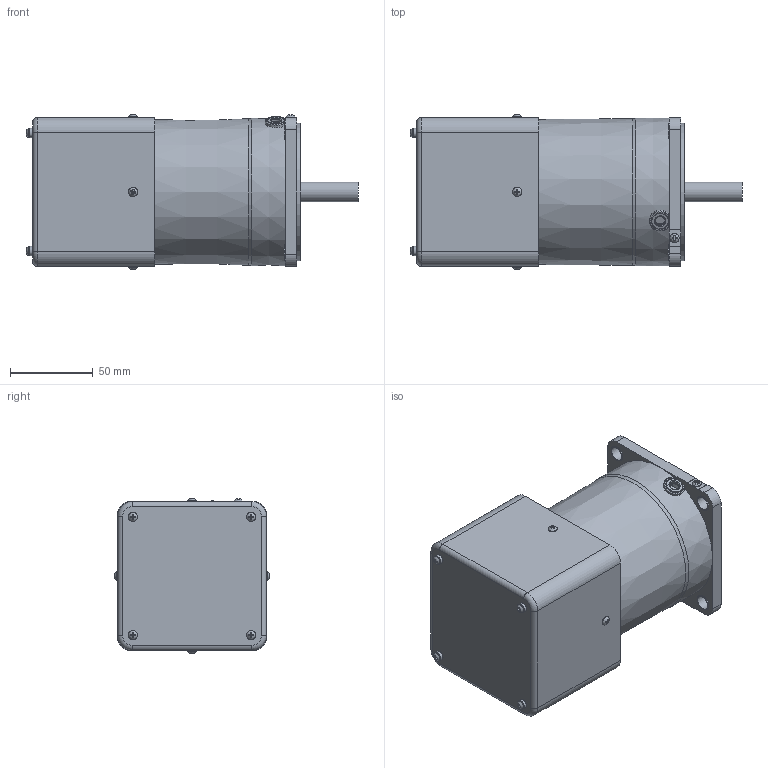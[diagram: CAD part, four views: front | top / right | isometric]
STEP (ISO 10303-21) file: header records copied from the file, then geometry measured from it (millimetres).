
FILE_DESCRIPTION(/* description */ (''),/* implementation_level */ '2;1');
FILE_NAME(/* name */ 'E:\도면작업\2016\0704) 미주향 SG 도면\3D MOTOR\SPEED CONTROL TYPE\SG9I60S_-S12(24).stp',/* time_stamp */ '2017-08-21T11:13:45+09:00',/* author */ ('jy-jung'),/* organization */ (''),/* preprocessor_version */ 'ST-DEVELOPER v15.6',/* originating_system */ 'Autodesk Inventor 2015',/* authorisation */ '');
FILE_SCHEMA (('AUTOMOTIVE_DESIGN { 1 0 10303 214 3 1 1 }'));
Length unit declared in the file: millimetre
Products named in the file (1): 부품27
Bounding box: 200.75 x 93.89 x 93.89 mm (x, y, z)
Volume: 874667.1 mm3; surface area: 101222.7 mm2
Topology: 1 solids, 7 shells, 307 faces, 751 edges, 487 vertices
Faces by surface type: plane 192, cylinder 72, torus 27, bspline 9, cone 7
Full cylindrical faces by diameter (mm): 3 x8, 4.5 x4, 5.6 x13, 6 x1, 8.5 x4, 9.5 x4, 10 x1, 12 x1, 40 x1, 83 x1
Entity records: 9624 total; most frequent: CARTESIAN_POINT 2441, ORIENTED_EDGE 1366, DIRECTION 1338, EDGE_CURVE 683, AXIS2_PLACEMENT_3D 490, VERTEX_POINT 483, EDGE_LOOP 418, LINE 358
